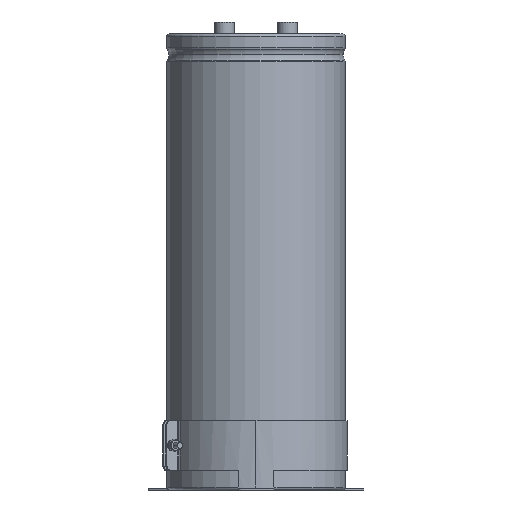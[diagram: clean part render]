
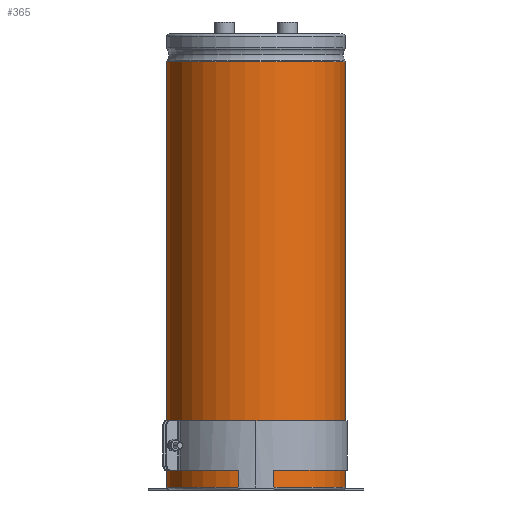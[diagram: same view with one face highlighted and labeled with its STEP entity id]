
A CAD part, left-side view. The second image highlights one B-rep face of the part: STEP entity #365.
In plain terms, the highlighted cylindrical face has radius 45 mm (diameter 90 mm), a partial arc.
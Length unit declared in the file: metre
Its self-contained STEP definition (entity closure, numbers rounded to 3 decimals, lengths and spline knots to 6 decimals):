
#365=ADVANCED_FACE('0:237',(#597),#598,.T.);
#597=FACE_OUTER_BOUND('',#1082,.T.);
#598=CYLINDRICAL_SURFACE('',#1083,0.045);
#1082=EDGE_LOOP('',(#2038,#2039,#2040,#2041));
#1083=AXIS2_PLACEMENT_3D('',#2042,#2043,#2044);
#2038=ORIENTED_EDGE('',*,*,#2995,.T.);
#2039=ORIENTED_EDGE('',*,*,#3004,.T.);
#2040=ORIENTED_EDGE('',*,*,#3006,.T.);
#2041=ORIENTED_EDGE('',*,*,#3007,.F.);
#2042=CARTESIAN_POINT('',(0.0,0.0,0.0));
#2043=DIRECTION('',(-0.0,0.0,1.0));
#2044=DIRECTION('',(0.0,1.0,0.0));
#2995=EDGE_CURVE('',#5626,#5634,#5635,.T.);
#3004=EDGE_CURVE('0:309',#5634,#5645,#5647,.T.);
#3006=EDGE_CURVE('0:312',#5645,#5649,#5650,.T.);
#3007=EDGE_CURVE('0:315',#5626,#5649,#5651,.T.);
#5626=VERTEX_POINT('',#6662);
#5634=VERTEX_POINT('',#6670);
#5635=LINE('',#6671,#6672);
#5645=VERTEX_POINT('',#6683);
#5647=CIRCLE('',#6685,0.045);
#5649=VERTEX_POINT('',#6687);
#5650=LINE('',#6688,#6689);
#5651=CIRCLE('',#6690,0.045);
#6662=CARTESIAN_POINT('',(0.,-0.045,0.0015));
#6670=CARTESIAN_POINT('',(0.,-0.045,0.2159));
#6671=CARTESIAN_POINT('',(0.,-0.045,0.1087));
#6672=VECTOR('',#8209,1.0);
#6683=CARTESIAN_POINT('',(-0.004,0.044822,0.2159));
#6685=AXIS2_PLACEMENT_3D('',#8226,#8227,#8228);
#6687=CARTESIAN_POINT('',(-0.004,0.044822,0.0015));
#6688=CARTESIAN_POINT('',(-0.004,0.044822,0.2159));
#6689=VECTOR('',#8229,0.001);
#6690=AXIS2_PLACEMENT_3D('',#8230,#8231,#8232);
#8209=DIRECTION('',(0.0,0.0,1.0));
#8226=CARTESIAN_POINT('',(0.0,0.0,0.2159));
#8227=DIRECTION('',(0.0,0.0,-1.0));
#8228=DIRECTION('',(0.0,1.0,0.0));
#8229=DIRECTION('',(0.0,0.0,-1.0));
#8230=CARTESIAN_POINT('',(0.0,0.0,0.0015));
#8231=DIRECTION('',(0.0,0.0,-1.0));
#8232=DIRECTION('',(0.0,1.0,0.0));
